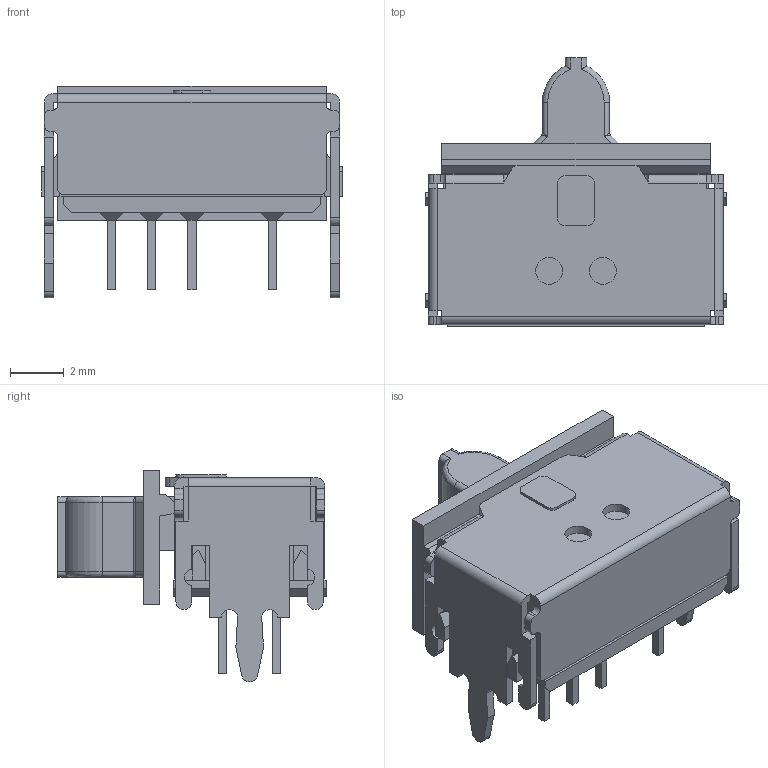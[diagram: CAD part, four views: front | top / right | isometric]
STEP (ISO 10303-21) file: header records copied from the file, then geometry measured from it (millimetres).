
FILE_DESCRIPTION (( 'STEP AP214' ), '1' );
FILE_NAME ('SSAC120200.STEP', '2010-02-26T06:43:47', ( '' ), ( '' ), 'SwSTEP 2.0', 'SolidWorks 2007', '' );
FILE_SCHEMA (( 'AUTOMOTIVE_DESIGN' ));
Length unit declared in the file: millimetre
Products named in the file (1): SSAC120200
Bounding box: 11.2 x 10 x 7.9 mm (x, y, z)
Volume: 316.4 mm3; surface area: 685.5 mm2
Topology: 1 solids, 1 shells, 321 faces, 874 edges, 556 vertices
Faces by surface type: plane 239, cylinder 74, bspline 8
Entity records: 13730 total; most frequent: CARTESIAN_POINT 2066, ORIENTED_EDGE 1740, DIRECTION 1610, EDGE_CURVE 870, VECTOR 718, LINE 718, VERTEX_POINT 556, AXIS2_PLACEMENT_3D 446
